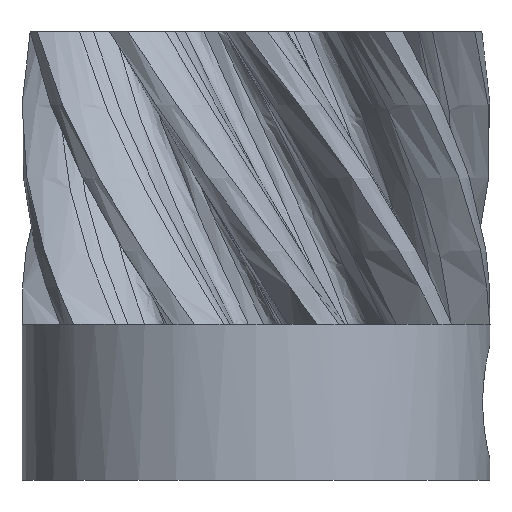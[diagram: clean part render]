
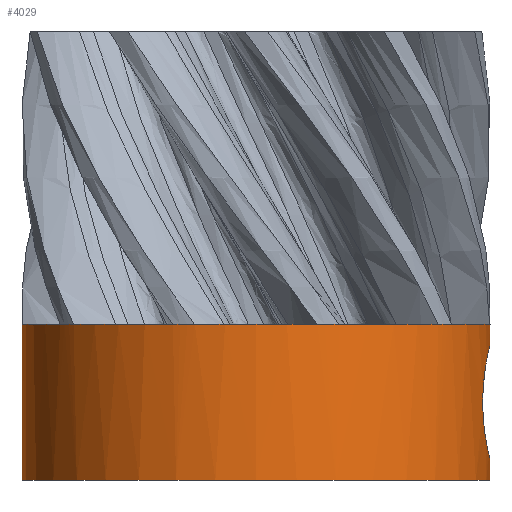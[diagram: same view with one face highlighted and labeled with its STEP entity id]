
A CAD part, front view. The second image highlights one B-rep face of the part: STEP entity #4029.
In plain terms, the highlighted cylindrical face has radius 12 mm (diameter 24 mm), a partial arc.
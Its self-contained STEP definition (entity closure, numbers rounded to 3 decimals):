
#335=CARTESIAN_POINT('',(0.,0.,0.));
#336=DIRECTION('',(0.,0.,1.));
#337=DIRECTION('',(-1.,0.,0.));
#338=AXIS2_PLACEMENT_3D('',#335,#336,#337);
#387=DIRECTION('',(0.,0.,1.));
#388=VECTOR('',#387,8.);
#389=CARTESIAN_POINT('',(-12.,0.,0.));
#390=LINE('',#389,#388);
#416=CARTESIAN_POINT('',(11.632,-2.95,4.));
#417=CARTESIAN_POINT('',(11.632,-2.95,4.197));
#418=CARTESIAN_POINT('',(11.642,-2.911,4.589));
#419=CARTESIAN_POINT('',(11.685,-2.736,5.152));
#420=CARTESIAN_POINT('',(11.746,-2.465,5.655));
#421=CARTESIAN_POINT('',(11.822,-2.076,6.127));
#422=CARTESIAN_POINT('',(11.898,-1.59,6.507));
#423=CARTESIAN_POINT('',(11.953,-1.103,6.755));
#424=CARTESIAN_POINT('',(11.992,-0.55,6.917));
#425=CARTESIAN_POINT('',(12.,-0.183,6.95));
#426=CARTESIAN_POINT('',(12.,0.,6.95));
#438=CARTESIAN_POINT('',(11.632,-2.95,4.));
#439=CARTESIAN_POINT('',(11.632,-2.95,3.803));
#440=CARTESIAN_POINT('',(11.642,-2.912,3.423));
#441=CARTESIAN_POINT('',(11.682,-2.746,2.877));
#442=CARTESIAN_POINT('',(11.739,-2.497,2.397));
#443=CARTESIAN_POINT('',(11.812,-2.131,1.93));
#444=CARTESIAN_POINT('',(11.886,-1.672,1.547));
#445=CARTESIAN_POINT('',(11.946,-1.181,1.277));
#446=CARTESIAN_POINT('',(11.989,-0.616,1.094));
#447=CARTESIAN_POINT('',(12.,-0.211,1.05));
#448=CARTESIAN_POINT('',(12.,0.,1.05));
#453=DIRECTION('',(0.,0.,1.));
#454=VECTOR('',#453,1.05);
#455=CARTESIAN_POINT('',(12.,0.,0.));
#456=LINE('',#455,#454);
#460=DIRECTION('',(0.001,0.,1.));
#461=VECTOR('',#460,1.05);
#462=CARTESIAN_POINT('',(12.,0.,6.95));
#463=LINE('',#462,#461);
#486=CARTESIAN_POINT('',(0.,0.,8.));
#487=DIRECTION('',(0.,0.,1.));
#488=DIRECTION('',(-1.,0.,0.));
#489=AXIS2_PLACEMENT_3D('',#486,#487,#488);
#1364=CARTESIAN_POINT('',(0.,0.,8.));
#1365=DIRECTION('',(0.,0.,1.));
#1366=DIRECTION('',(0.999,-0.049,0.));
#1367=AXIS2_PLACEMENT_3D('',#1364,#1365,#1366);
#1535=CARTESIAN_POINT('',(0.,0.,8.));
#1536=DIRECTION('',(0.,0.,1.));
#1537=DIRECTION('',(0.779,-0.627,0.));
#1538=AXIS2_PLACEMENT_3D('',#1535,#1536,#1537);
#1706=CARTESIAN_POINT('',(0.,0.,8.));
#1707=DIRECTION('',(0.,0.,1.));
#1708=DIRECTION('',(0.262,-0.965,0.));
#1709=AXIS2_PLACEMENT_3D('',#1706,#1707,#1708);
#1878=CARTESIAN_POINT('',(0.,0.,8.));
#1879=DIRECTION('',(0.,0.,1.));
#1880=DIRECTION('',(-0.355,-0.935,0.));
#1881=AXIS2_PLACEMENT_3D('',#1878,#1879,#1880);
#2051=CARTESIAN_POINT('',(0.,0.,8.));
#2052=DIRECTION('',(0.,0.,1.));
#2053=DIRECTION('',(-0.837,-0.547,0.));
#2054=AXIS2_PLACEMENT_3D('',#2051,#2052,#2053);
#2759=CARTESIAN_POINT('',(0.,0.,8.));
#2760=DIRECTION('',(0.,0.,1.));
#2761=DIRECTION('',(-0.999,-0.049,0.));
#2762=AXIS2_PLACEMENT_3D('',#2759,#2760,#2761);
#2839=CARTESIAN_POINT('',(0.,0.,8.));
#2840=DIRECTION('',(0.,0.,1.));
#2841=DIRECTION('',(-0.779,-0.627,0.));
#2842=AXIS2_PLACEMENT_3D('',#2839,#2840,#2841);
#2919=CARTESIAN_POINT('',(0.,0.,8.));
#2920=DIRECTION('',(0.,0.,1.));
#2921=DIRECTION('',(-0.262,-0.965,0.));
#2922=AXIS2_PLACEMENT_3D('',#2919,#2920,#2921);
#2999=CARTESIAN_POINT('',(0.,0.,8.));
#3000=DIRECTION('',(0.,0.,1.));
#3001=DIRECTION('',(0.355,-0.935,0.));
#3002=AXIS2_PLACEMENT_3D('',#2999,#3000,#3001);
#3079=CARTESIAN_POINT('',(0.,0.,8.));
#3080=DIRECTION('',(0.,0.,1.));
#3081=DIRECTION('',(0.837,-0.547,0.));
#3082=AXIS2_PLACEMENT_3D('',#3079,#3080,#3081);
#3571=VERTEX_POINT('',#416);
#3572=VERTEX_POINT('',#426);
#3573=CARTESIAN_POINT('',(10.042,-6.569,8.));
#3574=CARTESIAN_POINT('',(11.986,-0.588,8.));
#3575=VERTEX_POINT('',#3573);
#3576=VERTEX_POINT('',#3574);
#3577=CARTESIAN_POINT('',(4.263,-11.217,8.));
#3578=CARTESIAN_POINT('',(9.351,-7.521,8.));
#3579=VERTEX_POINT('',#3577);
#3580=VERTEX_POINT('',#3578);
#3581=CARTESIAN_POINT('',(-3.144,-11.581,8.));
#3582=CARTESIAN_POINT('',(3.144,-11.581,8.));
#3583=VERTEX_POINT('',#3581);
#3584=VERTEX_POINT('',#3582);
#3585=CARTESIAN_POINT('',(-9.351,-7.521,8.));
#3586=CARTESIAN_POINT('',(-4.263,-11.217,8.));
#3587=VERTEX_POINT('',#3585);
#3588=VERTEX_POINT('',#3586);
#3589=CARTESIAN_POINT('',(-11.986,-0.588,8.));
#3590=CARTESIAN_POINT('',(-10.042,-6.569,8.));
#3591=VERTEX_POINT('',#3589);
#3592=VERTEX_POINT('',#3590);
#3865=CARTESIAN_POINT('',(-12.,0.,0.));
#3866=CARTESIAN_POINT('',(-12.001,0.,8.));
#3867=VERTEX_POINT('',#3865);
#3868=VERTEX_POINT('',#3866);
#3869=CARTESIAN_POINT('',(12.,0.,0.));
#3870=VERTEX_POINT('',#3869);
#3871=CARTESIAN_POINT('',(12.,0.,1.05));
#3872=VERTEX_POINT('',#3871);
#3873=CARTESIAN_POINT('',(12.001,0.,8.));
#3874=VERTEX_POINT('',#3873);
#3994=CARTESIAN_POINT('',(0.,0.,0.));
#3995=DIRECTION('',(0.,0.,1.));
#3996=DIRECTION('',(1.,0.,0.));
#3997=AXIS2_PLACEMENT_3D('',#3994,#3995,#3996);
#3998=CYLINDRICAL_SURFACE('',#3997,12.);
#3999=ORIENTED_EDGE('',*,*,#3984,.T.);
#4000=ORIENTED_EDGE('',*,*,#3957,.F.);
#4001=ORIENTED_EDGE('',*,*,#3900,.F.);
#4002=ORIENTED_EDGE('',*,*,#3954,.T.);
#4004=ORIENTED_EDGE('',*,*,#4003,.T.);
#4006=ORIENTED_EDGE('',*,*,#4005,.T.);
#4008=ORIENTED_EDGE('',*,*,#4007,.T.);
#4010=ORIENTED_EDGE('',*,*,#4009,.T.);
#4012=ORIENTED_EDGE('',*,*,#4011,.T.);
#4014=ORIENTED_EDGE('',*,*,#4013,.T.);
#4016=ORIENTED_EDGE('',*,*,#4015,.T.);
#4018=ORIENTED_EDGE('',*,*,#4017,.T.);
#4020=ORIENTED_EDGE('',*,*,#4019,.T.);
#4022=ORIENTED_EDGE('',*,*,#4021,.T.);
#4024=ORIENTED_EDGE('',*,*,#4023,.T.);
#4025=ORIENTED_EDGE('',*,*,#3930,.F.);
#4026=ORIENTED_EDGE('',*,*,#3986,.F.);
#4027=EDGE_LOOP('',(#3999,#4000,#4001,#4002,#4004,#4006,#4008,#4010,#4012,#4014,
#4016,#4018,#4020,#4022,#4024,#4025,#4026));
#4028=FACE_OUTER_BOUND('',#4027,.F.);
#339=CIRCLE('',#338,12.);
#427=B_SPLINE_CURVE_WITH_KNOTS('',3,(#416,#417,#418,#419,#420,#421,#422,#423,
#424,#425,#426),.UNSPECIFIED.,.F.,.F.,(4,1,1,1,1,1,1,1,4),(0.,0.125,0.25,
0.375,0.5,0.625,0.75,0.875,1.),.UNSPECIFIED.);
#449=B_SPLINE_CURVE_WITH_KNOTS('',3,(#438,#439,#440,#441,#442,#443,#444,#445,
#446,#447,#448),.UNSPECIFIED.,.F.,.F.,(4,1,1,1,1,1,1,1,4),(0.,0.125,0.25,
0.375,0.5,0.625,0.75,0.875,1.),.UNSPECIFIED.);
#490=CIRCLE('',#489,12.);
#1368=CIRCLE('',#1367,12.);
#1539=CIRCLE('',#1538,12.);
#1710=CIRCLE('',#1709,12.);
#1882=CIRCLE('',#1881,12.);
#2055=CIRCLE('',#2054,12.);
#2763=CIRCLE('',#2762,12.);
#2843=CIRCLE('',#2842,12.);
#2923=CIRCLE('',#2922,12.);
#3003=CIRCLE('',#3002,12.);
#3083=CIRCLE('',#3082,12.);
#3900=EDGE_CURVE('',#3867,#3870,#339,.T.);
#3930=EDGE_CURVE('',#3572,#3874,#463,.T.);
#3954=EDGE_CURVE('',#3867,#3868,#390,.T.);
#3957=EDGE_CURVE('',#3870,#3872,#456,.T.);
#3984=EDGE_CURVE('',#3571,#3872,#449,.T.);
#3986=EDGE_CURVE('',#3571,#3572,#427,.T.);
#4003=EDGE_CURVE('',#3868,#3591,#490,.T.);
#4005=EDGE_CURVE('',#3591,#3592,#2763,.T.);
#4007=EDGE_CURVE('',#3592,#3587,#2055,.T.);
#4009=EDGE_CURVE('',#3587,#3588,#2843,.T.);
#4011=EDGE_CURVE('',#3588,#3583,#1882,.T.);
#4013=EDGE_CURVE('',#3583,#3584,#2923,.T.);
#4015=EDGE_CURVE('',#3584,#3579,#1710,.T.);
#4017=EDGE_CURVE('',#3579,#3580,#3003,.T.);
#4019=EDGE_CURVE('',#3580,#3575,#1539,.T.);
#4021=EDGE_CURVE('',#3575,#3576,#3083,.T.);
#4023=EDGE_CURVE('',#3576,#3874,#1368,.T.);
#4029=ADVANCED_FACE('',(#4028),#3998,.T.);
